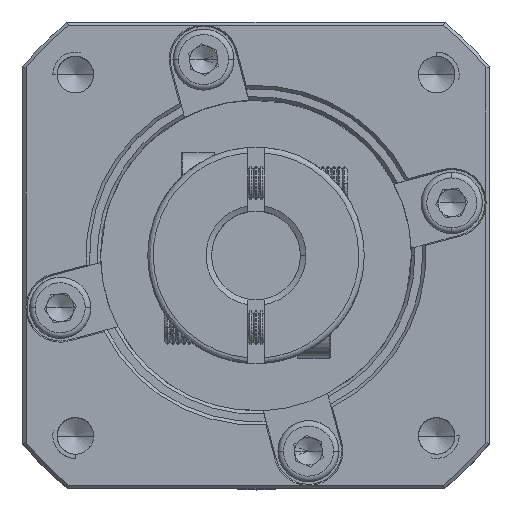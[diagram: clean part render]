
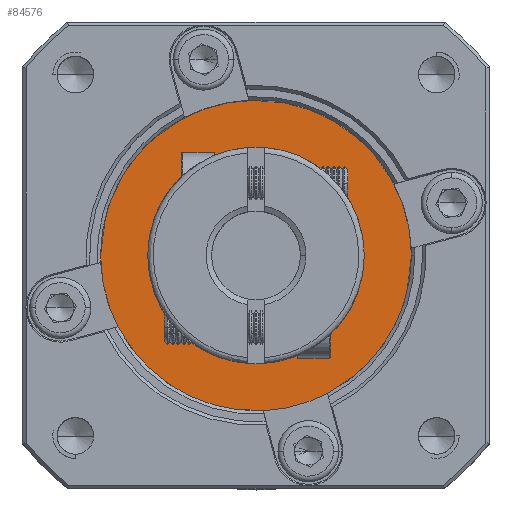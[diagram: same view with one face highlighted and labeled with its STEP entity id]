
A CAD part, top view. The second image highlights one B-rep face of the part: STEP entity #84576.
In plain terms, the highlighted planar face has unit normal (0, 0, 1).
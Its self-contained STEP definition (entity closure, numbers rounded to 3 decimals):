
#930 = FACE_OUTER_BOUND ( 'NONE', #121854, .T. ) ;
#3462 = CARTESIAN_POINT ( 'NONE',  ( -21.557, 4.283, 79.087 ) ) ;
#14974 = DIRECTION ( 'NONE',  ( 1., 0., 0. ) ) ;
#26589 = CARTESIAN_POINT ( 'NONE',  ( -42.357, 4.283, 79.087 ) ) ;
#29338 = CARTESIAN_POINT ( 'NONE',  ( -21.557, 4.283, 79.087 ) ) ;
#35071 = CARTESIAN_POINT ( 'NONE',  ( -21.557, 4.283, 79.087 ) ) ;
#40748 = DIRECTION ( 'NONE',  ( -1., 0., 0. ) ) ;
#45640 = AXIS2_PLACEMENT_3D ( 'NONE', #3462, #83205, #14974 ) ;
#46540 = DIRECTION ( 'NONE',  ( -1., 0., 0. ) ) ;
#50329 = AXIS2_PLACEMENT_3D ( 'NONE', #35071, #114813, #46540 ) ;
#54728 = ORIENTED_EDGE ( 'NONE', *, *, #113922, .F. ) ;
#71278 = PLANE ( 'NONE',  #45640 ) ;
#83205 = DIRECTION ( 'NONE',  ( 0., 0., 1. ) ) ;
#84576 = ADVANCED_FACE ( 'NONE', ( #930 ), #71278, .T. ) ;
#106660 = CIRCLE ( 'NONE', #138895, 20.8 ) ;
#108970 = VERTEX_POINT ( 'NONE', #26589 ) ;
#109002 = DIRECTION ( 'NONE',  ( 0., 0., -1. ) ) ;
#109236 = CIRCLE ( 'NONE', #50329, 20.8 ) ;
#113922 = EDGE_CURVE ( 'NONE', #108970, #146837, #109236, .T. ) ;
#114813 = DIRECTION ( 'NONE',  ( 0., 0., -1. ) ) ;
#121854 = EDGE_LOOP ( 'NONE', ( #54728, #147434 ) ) ;
#128211 = EDGE_CURVE ( 'NONE', #146837, #108970, #106660, .T. ) ;
#138895 = AXIS2_PLACEMENT_3D ( 'NONE', #29338, #109002, #40748 ) ;
#139928 = CARTESIAN_POINT ( 'NONE',  ( -0.757, 4.283, 79.087 ) ) ;
#146837 = VERTEX_POINT ( 'NONE', #139928 ) ;
#147434 = ORIENTED_EDGE ( 'NONE', *, *, #128211, .F. ) ;
